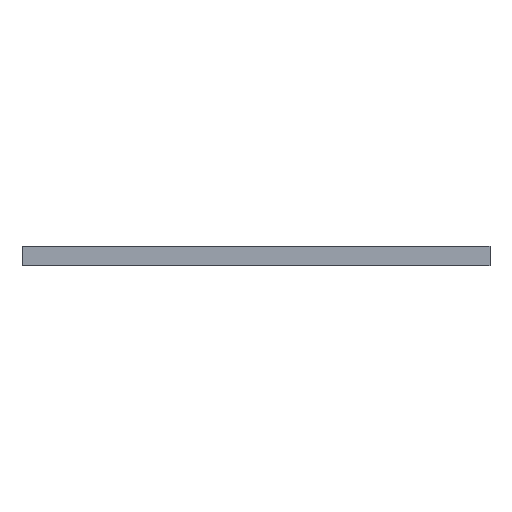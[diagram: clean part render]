
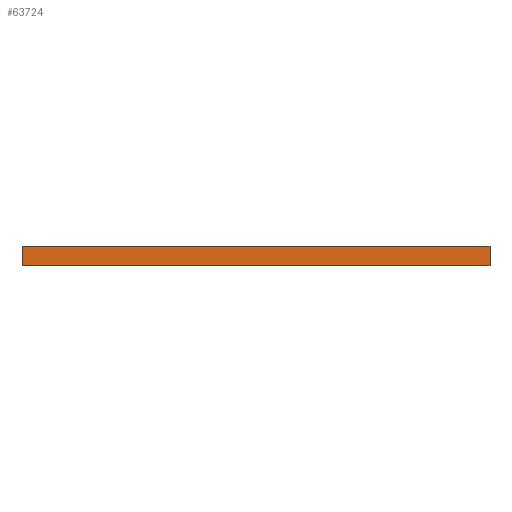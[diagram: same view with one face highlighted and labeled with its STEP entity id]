
A CAD part, front view. The second image highlights one B-rep face of the part: STEP entity #63724.
In plain terms, the highlighted planar face has unit normal (0, -1, 0).
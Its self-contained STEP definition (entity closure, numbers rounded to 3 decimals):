
#392 = CARTESIAN_POINT ( 'NONE',  ( 0., -150., 0. ) ) ;
#7266 = VECTOR ( 'NONE', #34968, 1000. ) ;
#7918 = VERTEX_POINT ( 'NONE', #54383 ) ;
#9017 = LINE ( 'NONE', #61962, #51815 ) ;
#13467 = DIRECTION ( 'NONE',  ( 0., 1., 0. ) ) ;
#14825 = EDGE_LOOP ( 'NONE', ( #23626, #75098, #58814, #57789 ) ) ;
#18651 = CARTESIAN_POINT ( 'NONE',  ( 0., -150., 0.5 ) ) ;
#20982 = DIRECTION ( 'NONE',  ( 1., 0., 0. ) ) ;
#23089 = LINE ( 'NONE', #52256, #7266 ) ;
#23626 = ORIENTED_EDGE ( 'NONE', *, *, #39572, .T. ) ;
#23738 = EDGE_CURVE ( 'NONE', #7918, #45550, #23089, .T. ) ;
#28389 = VERTEX_POINT ( 'NONE', #18651 ) ;
#32425 = DIRECTION ( 'NONE',  ( 0., 0., -1. ) ) ;
#34814 = EDGE_CURVE ( 'NONE', #28389, #51512, #9017, .T. ) ;
#34968 = DIRECTION ( 'NONE',  ( 0., 0., -1. ) ) ;
#36482 = CARTESIAN_POINT ( 'NONE',  ( -12., -150., 0.5 ) ) ;
#38240 = CARTESIAN_POINT ( 'NONE',  ( -12., -150., 0. ) ) ;
#38742 = AXIS2_PLACEMENT_3D ( 'NONE', #36482, #13467, #60256 ) ;
#39572 = EDGE_CURVE ( 'NONE', #45550, #51512, #48359, .T. ) ;
#45550 = VERTEX_POINT ( 'NONE', #73509 ) ;
#46059 = LINE ( 'NONE', #63311, #73226 ) ;
#47632 = FACE_OUTER_BOUND ( 'NONE', #14825, .T. ) ;
#48359 = LINE ( 'NONE', #38240, #49428 ) ;
#49428 = VECTOR ( 'NONE', #20982, 1000. ) ;
#51512 = VERTEX_POINT ( 'NONE', #392 ) ;
#51815 = VECTOR ( 'NONE', #32425, 1000. ) ;
#52256 = CARTESIAN_POINT ( 'NONE',  ( -12., -150., 0.5 ) ) ;
#54383 = CARTESIAN_POINT ( 'NONE',  ( -12., -150., 0.5 ) ) ;
#57789 = ORIENTED_EDGE ( 'NONE', *, *, #23738, .T. ) ;
#58814 = ORIENTED_EDGE ( 'NONE', *, *, #67476, .F. ) ;
#60256 = DIRECTION ( 'NONE',  ( -1., 0., 0. ) ) ;
#61962 = CARTESIAN_POINT ( 'NONE',  ( 0., -150., 0.5 ) ) ;
#63311 = CARTESIAN_POINT ( 'NONE',  ( -12., -150., 0.5 ) ) ;
#63724 = ADVANCED_FACE ( 'NONE', ( #47632 ), #71754, .F. ) ;
#67476 = EDGE_CURVE ( 'NONE', #7918, #28389, #46059, .T. ) ;
#69047 = DIRECTION ( 'NONE',  ( 1., 0., 0. ) ) ;
#71754 = PLANE ( 'NONE',  #38742 ) ;
#73226 = VECTOR ( 'NONE', #69047, 1000. ) ;
#73509 = CARTESIAN_POINT ( 'NONE',  ( -12., -150., 0. ) ) ;
#75098 = ORIENTED_EDGE ( 'NONE', *, *, #34814, .F. ) ;
